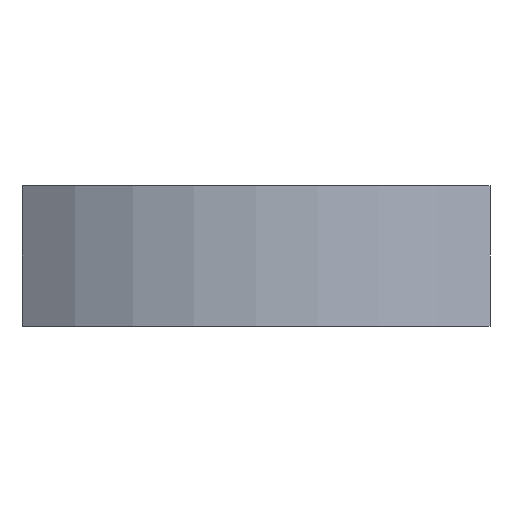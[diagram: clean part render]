
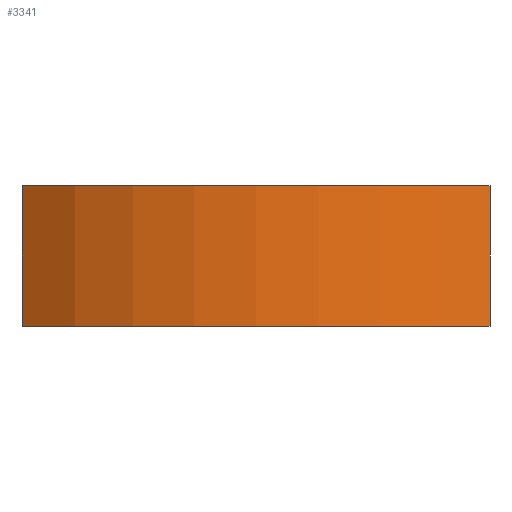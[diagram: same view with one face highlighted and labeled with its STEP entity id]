
A CAD part, left-side view. The second image highlights one B-rep face of the part: STEP entity #3341.
In plain terms, the highlighted cylindrical face has radius 25 mm (diameter 50 mm), a partial arc.
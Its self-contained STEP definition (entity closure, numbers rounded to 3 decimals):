
#20=CYLINDRICAL_SURFACE('',#3467,25.);
#148=CIRCLE('',#3440,25.);
#162=CIRCLE('',#3468,25.);
#343=FACE_OUTER_BOUND('',#548,.T.);
#548=EDGE_LOOP('',(#3054,#3055,#3056,#3057));
#825=LINE('',#6253,#1097);
#827=LINE('',#6257,#1099);
#1097=VECTOR('',#3940,10.);
#1099=VECTOR('',#3944,10.);
#1605=VERTEX_POINT('',#6202);
#1606=VERTEX_POINT('',#6204);
#1619=VERTEX_POINT('',#6252);
#1620=VERTEX_POINT('',#6256);
#2080=EDGE_CURVE('',#1606,#1605,#148,.T.);
#2102=EDGE_CURVE('',#1619,#1606,#825,.T.);
#2104=EDGE_CURVE('',#1620,#1605,#827,.T.);
#2105=EDGE_CURVE('',#1619,#1620,#162,.T.);
#3054=ORIENTED_EDGE('',*,*,#2080,.T.);
#3055=ORIENTED_EDGE('',*,*,#2104,.F.);
#3056=ORIENTED_EDGE('',*,*,#2105,.F.);
#3057=ORIENTED_EDGE('',*,*,#2102,.T.);
#3341=ADVANCED_FACE('',(#343),#20,.T.);
#3440=AXIS2_PLACEMENT_3D('',#6205,#3878,#3879);
#3467=AXIS2_PLACEMENT_3D('',#6255,#3942,#3943);
#3468=AXIS2_PLACEMENT_3D('',#6258,#3945,#3946);
#3878=DIRECTION('center_axis',(0.,0.,-1.));
#3879=DIRECTION('ref_axis',(0.8,-0.6,0.));
#3940=DIRECTION('',(0.,0.,1.));
#3942=DIRECTION('center_axis',(0.,0.,1.));
#3943=DIRECTION('ref_axis',(0.8,-0.6,0.));
#3944=DIRECTION('',(0.,0.,1.));
#3945=DIRECTION('center_axis',(0.,0.,-1.));
#3946=DIRECTION('ref_axis',(0.8,-0.6,0.));
#6202=CARTESIAN_POINT('',(-20.,15.,9.));
#6204=CARTESIAN_POINT('',(-20.,-15.,9.));
#6205=CARTESIAN_POINT('Origin',(0.,0.,9.));
#6252=CARTESIAN_POINT('',(-20.,-15.,0.));
#6253=CARTESIAN_POINT('',(-20.,-15.,0.));
#6255=CARTESIAN_POINT('Origin',(0.,0.,0.));
#6256=CARTESIAN_POINT('',(-20.,15.,0.));
#6257=CARTESIAN_POINT('',(-20.,15.,0.));
#6258=CARTESIAN_POINT('Origin',(0.,0.,0.));
